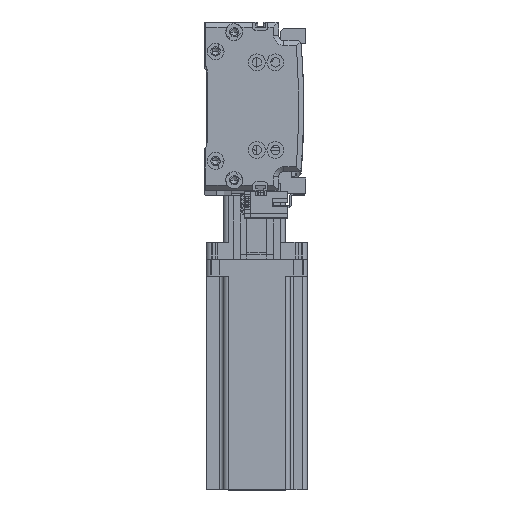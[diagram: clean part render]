
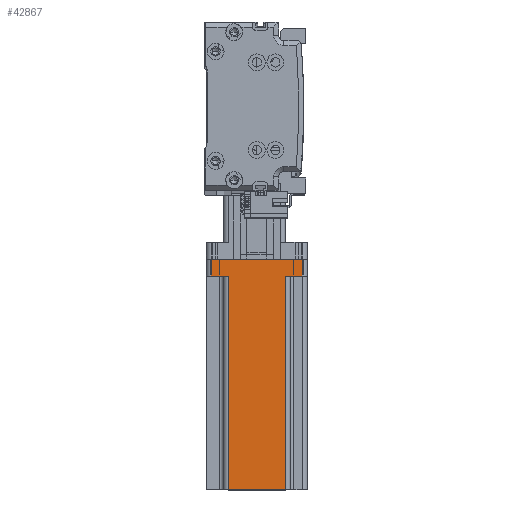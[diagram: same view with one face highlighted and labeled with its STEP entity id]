
A CAD part, top view. The second image highlights one B-rep face of the part: STEP entity #42867.
In plain terms, the highlighted planar face has unit normal (0, 0, 1) as drawn and (0, 1, 0) by its records, which use the part's own axes.
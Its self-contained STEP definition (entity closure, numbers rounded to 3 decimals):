
#91 = EDGE_CURVE ( 'NONE', #39352, #41159, #48963, .T. ) ;
#1087 = CARTESIAN_POINT ( 'NONE',  ( -27., 30., 10. ) ) ;
#1719 = VERTEX_POINT ( 'NONE', #34000 ) ;
#1964 = CARTESIAN_POINT ( 'NONE',  ( -27., 30., 137. ) ) ;
#4018 = CARTESIAN_POINT ( 'NONE',  ( 30., 30., 0. ) ) ;
#4167 = VECTOR ( 'NONE', #29521, 1000. ) ;
#4339 = EDGE_CURVE ( 'NONE', #48669, #47066, #19997, .T. ) ;
#4601 = FACE_OUTER_BOUND ( 'NONE', #9265, .T. ) ;
#6250 = CARTESIAN_POINT ( 'NONE',  ( 17., 30., 137. ) ) ;
#7124 = VERTEX_POINT ( 'NONE', #26420 ) ;
#7194 = DIRECTION ( 'NONE',  ( 0., 0., -1. ) ) ;
#7789 = VECTOR ( 'NONE', #7194, 1000. ) ;
#8973 = AXIS2_PLACEMENT_3D ( 'NONE', #19691, #52033, #24393 ) ;
#9265 = EDGE_LOOP ( 'NONE', ( #41660, #24902, #18384, #12466, #45492, #39600, #41820, #58568 ) ) ;
#9347 = EDGE_CURVE ( 'NONE', #51190, #39352, #52340, .T. ) ;
#9539 = VECTOR ( 'NONE', #48454, 1000. ) ;
#10262 = CARTESIAN_POINT ( 'NONE',  ( -20., 30., 10. ) ) ;
#11140 = VECTOR ( 'NONE', #19665, 1000. ) ;
#12466 = ORIENTED_EDGE ( 'NONE', *, *, #4339, .T. ) ;
#13737 = CARTESIAN_POINT ( 'NONE',  ( -17., 30., 137. ) ) ;
#14864 = DIRECTION ( 'NONE',  ( 1., 0., 0. ) ) ;
#15279 = EDGE_CURVE ( 'NONE', #48669, #41159, #57167, .T. ) ;
#16337 = LINE ( 'NONE', #4018, #28616 ) ;
#18384 = ORIENTED_EDGE ( 'NONE', *, *, #15279, .F. ) ;
#19665 = DIRECTION ( 'NONE',  ( 0., 0., -1. ) ) ;
#19691 = CARTESIAN_POINT ( 'NONE',  ( 30., 30., 137. ) ) ;
#19997 = LINE ( 'NONE', #25548, #7789 ) ;
#22375 = VERTEX_POINT ( 'NONE', #40202 ) ;
#22503 = DIRECTION ( 'NONE',  ( -1., 0., 0. ) ) ;
#24319 = EDGE_CURVE ( 'NONE', #1719, #22375, #35731, .T. ) ;
#24393 = DIRECTION ( 'NONE',  ( 1., 0., 0. ) ) ;
#24902 = ORIENTED_EDGE ( 'NONE', *, *, #91, .T. ) ;
#25548 = CARTESIAN_POINT ( 'NONE',  ( 17., 30., 137. ) ) ;
#26420 = CARTESIAN_POINT ( 'NONE',  ( -27., 30., 0. ) ) ;
#27761 = VECTOR ( 'NONE', #14864, 1000. ) ;
#28544 = EDGE_CURVE ( 'NONE', #7124, #51190, #51772, .T. ) ;
#28616 = VECTOR ( 'NONE', #22503, 1000. ) ;
#29521 = DIRECTION ( 'NONE',  ( 0., 0., 1. ) ) ;
#32821 = CARTESIAN_POINT ( 'NONE',  ( 17., 30., 10. ) ) ;
#34000 = CARTESIAN_POINT ( 'NONE',  ( 27., 30., 10. ) ) ;
#34184 = LINE ( 'NONE', #56864, #58721 ) ;
#35206 = VECTOR ( 'NONE', #35960, 1000. ) ;
#35731 = LINE ( 'NONE', #42760, #11140 ) ;
#35766 = CARTESIAN_POINT ( 'NONE',  ( -17., 30., 10. ) ) ;
#35960 = DIRECTION ( 'NONE',  ( 0., 0., 1. ) ) ;
#37533 = CARTESIAN_POINT ( 'NONE',  ( -17., 30., 137. ) ) ;
#39352 = VERTEX_POINT ( 'NONE', #35766 ) ;
#39600 = ORIENTED_EDGE ( 'NONE', *, *, #24319, .T. ) ;
#40202 = CARTESIAN_POINT ( 'NONE',  ( 27., 30., 0. ) ) ;
#41159 = VERTEX_POINT ( 'NONE', #13737 ) ;
#41660 = ORIENTED_EDGE ( 'NONE', *, *, #9347, .T. ) ;
#41820 = ORIENTED_EDGE ( 'NONE', *, *, #45750, .T. ) ;
#42760 = CARTESIAN_POINT ( 'NONE',  ( 27., 30., 137. ) ) ;
#42867 = ADVANCED_FACE ( 'NONE', ( #4601 ), #47231, .F. ) ;
#42917 = EDGE_CURVE ( 'NONE', #1719, #47066, #34184, .T. ) ;
#43827 = CARTESIAN_POINT ( 'NONE',  ( 30., 30., 137. ) ) ;
#45492 = ORIENTED_EDGE ( 'NONE', *, *, #42917, .F. ) ;
#45750 = EDGE_CURVE ( 'NONE', #22375, #7124, #16337, .T. ) ;
#47066 = VERTEX_POINT ( 'NONE', #32821 ) ;
#47231 = PLANE ( 'NONE',  #8973 ) ;
#47625 = DIRECTION ( 'NONE',  ( -1., 0., 0. ) ) ;
#48454 = DIRECTION ( 'NONE',  ( -1., 0., 0. ) ) ;
#48669 = VERTEX_POINT ( 'NONE', #6250 ) ;
#48963 = LINE ( 'NONE', #37533, #35206 ) ;
#51190 = VERTEX_POINT ( 'NONE', #1087 ) ;
#51772 = LINE ( 'NONE', #1964, #4167 ) ;
#52033 = DIRECTION ( 'NONE',  ( 0., -1., 0. ) ) ;
#52340 = LINE ( 'NONE', #10262, #27761 ) ;
#56864 = CARTESIAN_POINT ( 'NONE',  ( 20., 30., 10. ) ) ;
#57167 = LINE ( 'NONE', #43827, #9539 ) ;
#58568 = ORIENTED_EDGE ( 'NONE', *, *, #28544, .T. ) ;
#58721 = VECTOR ( 'NONE', #47625, 1000. ) ;
